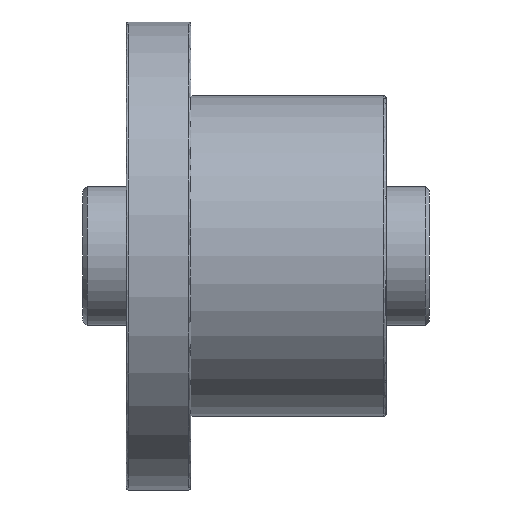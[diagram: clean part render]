
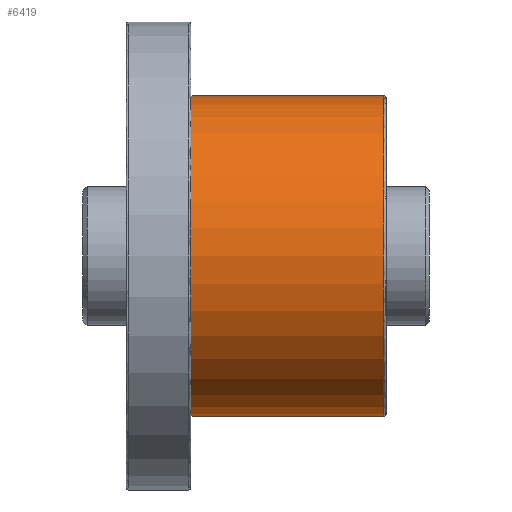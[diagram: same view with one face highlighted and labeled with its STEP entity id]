
A CAD part, front view. The second image highlights one B-rep face of the part: STEP entity #6419.
In plain terms, the highlighted cylindrical face has radius 37 mm (diameter 74 mm), a partial arc.
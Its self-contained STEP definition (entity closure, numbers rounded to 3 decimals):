
#331 = ORIENTED_EDGE ( 'NONE', *, *, #5302, .F. ) ;
#410 = DIRECTION ( 'NONE',  ( 0., 0., 1. ) ) ;
#644 = VECTOR ( 'NONE', #7886, 1000. ) ;
#704 = EDGE_CURVE ( 'NONE', #1871, #4896, #7118, .T. ) ;
#837 = LINE ( 'NONE', #3572, #644 ) ;
#913 = FACE_OUTER_BOUND ( 'NONE', #5451, .T. ) ;
#1009 = VECTOR ( 'NONE', #3262, 1000. ) ;
#1253 = EDGE_CURVE ( 'NONE', #1978, #2611, #4400, .T. ) ;
#1282 = DIRECTION ( 'NONE',  ( -1., 0., 0. ) ) ;
#1673 = CARTESIAN_POINT ( 'NONE',  ( 59.5, 0., -37. ) ) ;
#1871 = VERTEX_POINT ( 'NONE', #1673 ) ;
#1978 = VERTEX_POINT ( 'NONE', #4891 ) ;
#1988 = CARTESIAN_POINT ( 'NONE',  ( 59.5, 0., 0. ) ) ;
#2049 = ORIENTED_EDGE ( 'NONE', *, *, #1253, .F. ) ;
#2328 = CARTESIAN_POINT ( 'NONE',  ( 15., 0., 0. ) ) ;
#2576 = AXIS2_PLACEMENT_3D ( 'NONE', #4368, #1282, #5119 ) ;
#2611 = VERTEX_POINT ( 'NONE', #3751 ) ;
#2618 = DIRECTION ( 'NONE',  ( 0., 0., 1. ) ) ;
#3234 = ORIENTED_EDGE ( 'NONE', *, *, #6293, .T. ) ;
#3246 = DIRECTION ( 'NONE',  ( -1., 0., 0. ) ) ;
#3262 = DIRECTION ( 'NONE',  ( -1., 0., 0. ) ) ;
#3572 = CARTESIAN_POINT ( 'NONE',  ( 60., 0., -37. ) ) ;
#3751 = CARTESIAN_POINT ( 'NONE',  ( 15., 0., 37. ) ) ;
#3896 = AXIS2_PLACEMENT_3D ( 'NONE', #1988, #3246, #2618 ) ;
#4368 = CARTESIAN_POINT ( 'NONE',  ( 60., 0., 0. ) ) ;
#4400 = CIRCLE ( 'NONE', #5402, 37. ) ;
#4717 = ORIENTED_EDGE ( 'NONE', *, *, #704, .T. ) ;
#4891 = CARTESIAN_POINT ( 'NONE',  ( 15., 0., -37. ) ) ;
#4896 = VERTEX_POINT ( 'NONE', #6190 ) ;
#5119 = DIRECTION ( 'NONE',  ( 0., 0., 1. ) ) ;
#5302 = EDGE_CURVE ( 'NONE', #1871, #1978, #837, .T. ) ;
#5402 = AXIS2_PLACEMENT_3D ( 'NONE', #2328, #5959, #410 ) ;
#5451 = EDGE_LOOP ( 'NONE', ( #331, #4717, #3234, #2049 ) ) ;
#5959 = DIRECTION ( 'NONE',  ( -1., 0., 0. ) ) ;
#6190 = CARTESIAN_POINT ( 'NONE',  ( 59.5, 0., 37. ) ) ;
#6293 = EDGE_CURVE ( 'NONE', #4896, #2611, #7597, .T. ) ;
#6419 = ADVANCED_FACE ( 'NONE', ( #913 ), #7197, .T. ) ;
#6989 = CARTESIAN_POINT ( 'NONE',  ( 60., 0., 37. ) ) ;
#7118 = CIRCLE ( 'NONE', #3896, 37. ) ;
#7197 = CYLINDRICAL_SURFACE ( 'NONE', #2576, 37. ) ;
#7597 = LINE ( 'NONE', #6989, #1009 ) ;
#7886 = DIRECTION ( 'NONE',  ( -1., 0., 0. ) ) ;
